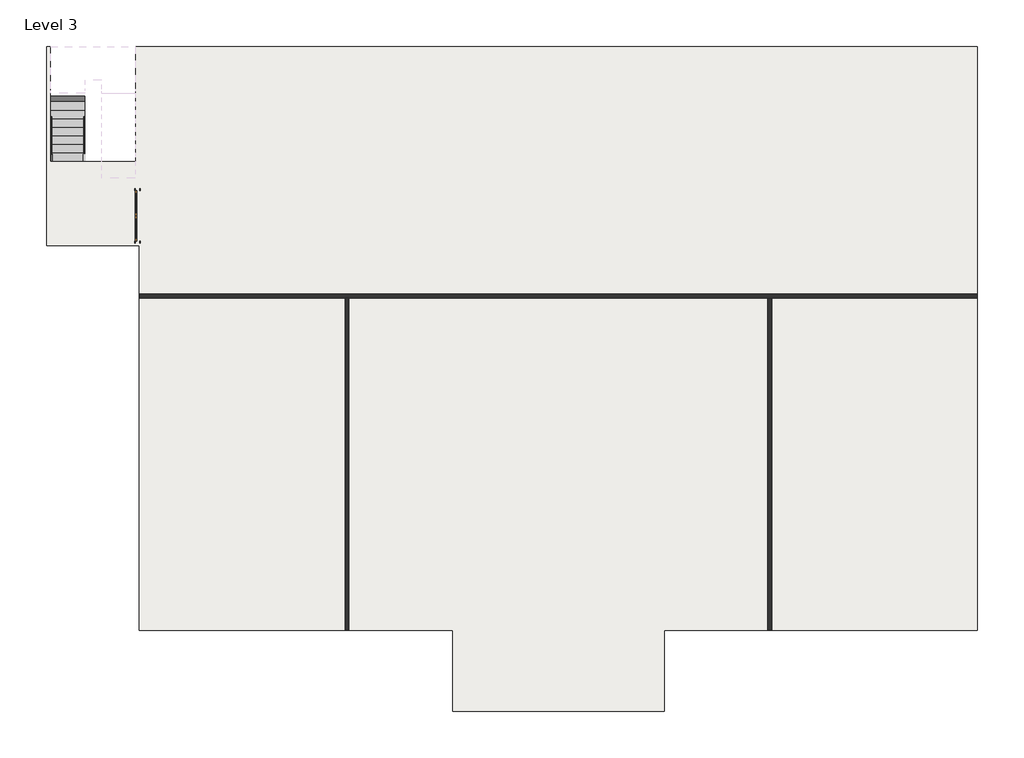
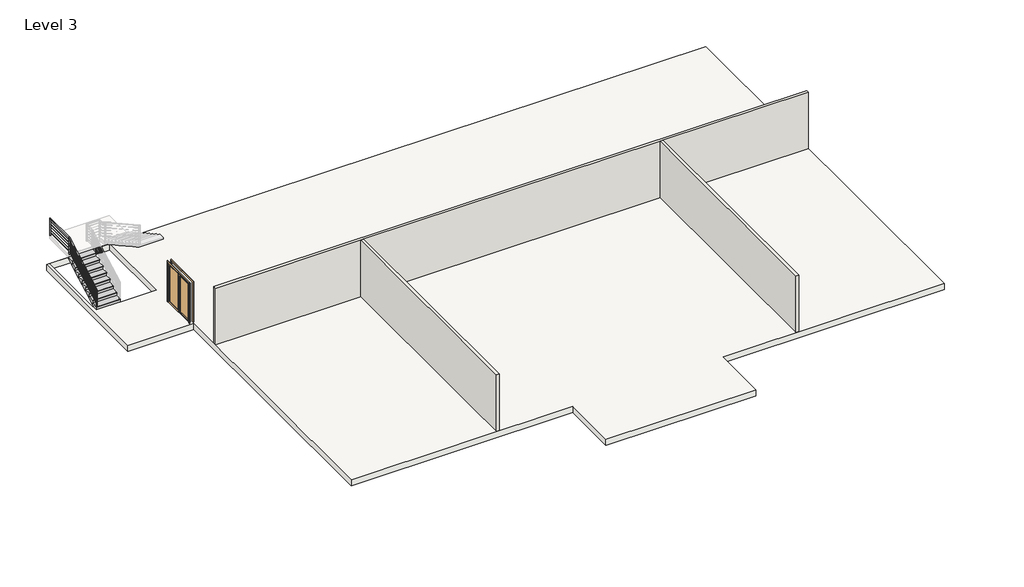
# One storey, part 1 of 3: 3 walls, 1 door, 1 railing, 1 slab, 1 stair flight.
"""IFC4 building model written with IfcOpenShell, lengths in millimetres."""

import ifcopenshell
import ifcopenshell.guid

model = None  # the IFC model being written
_history = None  # IfcOwnerHistory: only IFC2X3 demands one
_inside = {}  # id of a spatial element -> (the spatial element, [elements in it])
_under = {}  # id of a project, library or spatial element -> (it, [spatial elements below it])
_declared = {}  # id of a project -> (the project, [libraries it declares])
_typed = {}  # id of a type object -> (the type object, [elements of that type])
_made_of = {}  # id of a material, layer set ... -> (it, [elements and type objects made of it])


def new_model(schema):
    """Start an empty IFC model of exactly this schema.

    Asked for "IFC4X3", IfcOpenShell would pick the latest addendum, in which some entities
    have other attributes; the version numbers below select the first issue.
    IFC2X3 requires an IfcOwnerHistory on every rooted entity: one is made here for all.
    """
    global model, _history
    if schema == "IFC4X3":
        model = ifcopenshell.file(schema_version=(4, 3, 0, 0))
    else:
        model = ifcopenshell.file(schema=schema)
    _inside.clear()
    _under.clear()
    _declared.clear()
    _typed.clear()
    _made_of.clear()
    _history = None
    if model.schema == "IFC2X3":
        org = make("IfcOrganization", Name="unknown")
        user = make(
            "IfcPersonAndOrganization",
            ThePerson=make("IfcPerson", FamilyName="unknown"),
            TheOrganization=org,
        )
        app = make(
            "IfcApplication",
            ApplicationDeveloper=org,
            Version="unknown",
            ApplicationFullName="unknown",
            ApplicationIdentifier="unknown",
        )
        _history = make(
            "IfcOwnerHistory",
            OwningUser=user,
            OwningApplication=app,
            ChangeAction="ADDED",
            CreationDate=0,
        )
    return model


def make(cls, **values):
    """One entity of the class cls with the attributes given. An attribute that is None is left unset."""
    return model.create_entity(
        cls, **{name: value for name, value in values.items() if value is not None}
    )


def rooted(cls, **values):
    """An entity with a GlobalId (a new one), such as an element, a storey or a relation."""
    return make(cls, GlobalId=ifcopenshell.guid.new(), OwnerHistory=_history, **values)


def si_unit(unit_type, name, prefix=None):
    """IfcSIUnit, for example si_unit("LENGTHUNIT", "METRE", prefix="MILLI")."""
    return make("IfcSIUnit", UnitType=unit_type, Prefix=prefix, Name=name)


def assignment(units):
    """IfcUnitAssignment: the units of a project."""
    return None if units is None else make("IfcUnitAssignment", Units=units)


def point(xyz):
    """IfcCartesianPoint."""
    return None if xyz is None else make("IfcCartesianPoint", Coordinates=xyz)


def direction(xyz):
    """IfcDirection."""
    return None if xyz is None else make("IfcDirection", DirectionRatios=xyz)


def frame(location, z_axis=None, x_axis=None):
    """IfcAxis2Placement3D, a coordinate frame: its origin and axes. An axis left out is left unset."""
    return make(
        "IfcAxis2Placement3D",
        Location=point(location),
        Axis=direction(z_axis),
        RefDirection=direction(x_axis),
    )


def frame_2d(location, x_axis=None):
    """IfcAxis2Placement2D, a coordinate frame in the plane: its origin and x axis."""
    return make(
        "IfcAxis2Placement2D", Location=point(location), RefDirection=direction(x_axis)
    )


def origin():
    """The frame at (0, 0, 0) with its axes left unset."""
    return frame((0.0, 0.0, 0.0))


def place(relative_to, where):
    """IfcLocalPlacement: puts the frame where relative to a parent placement (None: the world)."""
    return make(
        "IfcLocalPlacement", PlacementRelTo=relative_to, RelativePlacement=where
    )


def context(
    kind, dimensions, precision=None, world=None, true_north=None, identifier=None
):
    """IfcGeometricRepresentationContext, for example the 3D "Model" context."""
    return make(
        "IfcGeometricRepresentationContext",
        ContextIdentifier=identifier,
        ContextType=kind,
        CoordinateSpaceDimension=dimensions,
        Precision=precision,
        WorldCoordinateSystem=world,
        TrueNorth=true_north,
    )


def project(units=None, contexts=None):
    """IfcProject with its units and contexts."""
    return rooted(
        "IfcProject",
        Name="project",
        RepresentationContexts=contexts,
        UnitsInContext=assignment(units),
    )


def spatial(cls, under=None, at=None, **own):
    """A site, building, storey or space (cls), placed at a placement, below another one or the project."""
    s = rooted(cls, ObjectPlacement=at, **own)
    if under is not None:
        _under.setdefault(under.id(), (under, []))[1].append(s)
    return s


def polyline(points):
    """IfcPolyline through the points."""
    return make("IfcPolyline", Points=[point(p) for p in points])


def circle_curve(where, radius):
    """IfcCircle in the frame where."""
    return make("IfcCircle", Position=where, Radius=radius)


def ellipse_curve(where, semi_axis1, semi_axis2):
    """IfcEllipse in the frame where."""
    return make(
        "IfcEllipse", Position=where, SemiAxis1=semi_axis1, SemiAxis2=semi_axis2
    )


def trimmed(basis, trim1, trim2, sense, master):
    """IfcTrimmedCurve: the piece of a basis curve between two trims."""
    return make(
        "IfcTrimmedCurve",
        BasisCurve=basis,
        Trim1=trim1,
        Trim2=trim2,
        SenseAgreement=sense,
        MasterRepresentation=master,
    )


def segment(curve, same_sense, transition):
    """IfcCompositeCurveSegment."""
    return make(
        "IfcCompositeCurveSegment",
        Transition=transition,
        SameSense=same_sense,
        ParentCurve=curve,
    )


def composite_curve(segments, self_intersect=None):
    """IfcCompositeCurve: segments joined end to end."""
    return make("IfcCompositeCurve", Segments=segments, SelfIntersect=self_intersect)


def outline(outer, holes=None, kind="AREA"):
    """IfcArbitraryClosedProfileDef: a profile drawn as a closed curve; with holes, ...WithVoids."""
    if holes is None:
        return make("IfcArbitraryClosedProfileDef", ProfileType=kind, OuterCurve=outer)
    return make(
        "IfcArbitraryProfileDefWithVoids",
        ProfileType=kind,
        OuterCurve=outer,
        InnerCurves=holes,
    )


def extrude(swept, where, along, depth):
    """IfcExtrudedAreaSolid: the profile swept, set in the frame where, extruded along a direction by depth."""
    return make(
        "IfcExtrudedAreaSolid",
        SweptArea=swept,
        Position=where,
        ExtrudedDirection=direction(along),
        Depth=depth,
    )


def faces_of(points, faces, orient=None, outer=None):
    """IfcFace entities. A face is a list of loops; a loop is a list of indices into points, from 0.

    orient and outer hold one flag for each loop. By default every Orientation is true, the
    first loop of a face is its IfcFaceOuterBound and the others are IfcFaceBound.
    """
    made = []
    for i, loops in enumerate(faces):
        bounds = []
        for j, loop in enumerate(loops):
            is_outer = j == 0 if outer is None else outer[i][j]
            bounds.append(
                make(
                    "IfcFaceOuterBound" if is_outer else "IfcFaceBound",
                    Bound=make("IfcPolyLoop", Polygon=[points[k] for k in loop]),
                    Orientation=True if orient is None else orient[i][j],
                )
            )
        made.append(make("IfcFace", Bounds=bounds))
    return made


def faceted_brep(points, faces, orient=None, outer=None, voids=None):
    """IfcFacetedBrep: a solid bounded by flat faces; with voids (closed shells), ...WithVoids."""
    shared = [point(p) for p in points]
    hull = make("IfcClosedShell", CfsFaces=faces_of(shared, faces, orient, outer))
    if voids is None:
        return make("IfcFacetedBrep", Outer=hull)
    return make(
        "IfcFacetedBrepWithVoids",
        Outer=hull,
        Voids=[
            make(cls, CfsFaces=faces_of(shared, fs, o, b)) for cls, fs, o, b in voids
        ],
    )


def shape(context_of_items, identifier, shape_type, items):
    """IfcShapeRepresentation: the items that make up one representation, for example the "Body"."""
    return make(
        "IfcShapeRepresentation",
        ContextOfItems=context_of_items,
        RepresentationIdentifier=identifier,
        RepresentationType=shape_type,
        Items=items,
    )


def source(mapping_origin, context_of_items, identifier, shape_type, items):
    """IfcRepresentationMap: a shape defined once, which mapped items show again and again."""
    return make(
        "IfcRepresentationMap",
        MappingOrigin=mapping_origin,
        MappedRepresentation=shape(context_of_items, identifier, shape_type, items),
    )


def transform(
    local_origin,
    x_axis=None,
    y_axis=None,
    z_axis=None,
    scale=None,
    scale2=None,
    scale3=None,
    uniform=True,
):
    """IfcCartesianTransformationOperator3D, or its non-uniform kind. x_axis, y_axis, z_axis: its Axis1, 2, 3."""
    if uniform:
        return make(
            "IfcCartesianTransformationOperator3D",
            Axis1=direction(x_axis),
            Axis2=direction(y_axis),
            LocalOrigin=point(local_origin),
            Scale=scale,
            Axis3=direction(z_axis),
        )
    return make(
        "IfcCartesianTransformationOperator3DnonUniform",
        Axis1=direction(x_axis),
        Axis2=direction(y_axis),
        LocalOrigin=point(local_origin),
        Scale=scale,
        Axis3=direction(z_axis),
        Scale2=scale2,
        Scale3=scale3,
    )


def mapped(mapping_source, mapping_target):
    """IfcMappedItem: shows the shape of a source again, moved by a transform."""
    return make(
        "IfcMappedItem", MappingSource=mapping_source, MappingTarget=mapping_target
    )


def made_of(thing, what):
    """Note that an element or type object is made of a material, layer set ...; save() writes the relation."""
    if what is not None:
        _made_of.setdefault(what.id(), (what, []))[1].append(thing)
    return thing


def element(
    cls,
    number,
    at=None,
    inside=None,
    cuts=None,
    type_object=None,
    material=None,
    context=None,
    identifier="Body",
    shape_type=None,
    held_by="IfcProductDefinitionShape",
    body=None,
    shapes=None,
    **own,
):
    """One element of the class cls, such as IfcWall. Its Tag is "e" and its number.

    at: its placement. inside: the storey or other place that contains it. cuts: it is an
    opening in that element (IfcRelVoidsElement). A single representation is given by context,
    identifier, shape_type and body (its items); several are given by shapes. held_by: the class
    of the entity that holds the representations. save() writes the other relations.
    """
    e = rooted(cls, Tag="e%d" % number, ObjectPlacement=at, **own)
    if body is not None:
        shapes = [shape(context, identifier, shape_type, body)]
    if shapes is not None:
        e.Representation = make(held_by, Representations=shapes)
    if inside is not None:
        _inside.setdefault(inside.id(), (inside, []))[1].append(e)
    if cuts is not None:
        rooted(
            "IfcRelVoidsElement", RelatingBuildingElement=cuts, RelatedOpeningElement=e
        )
    if type_object is not None:
        _typed.setdefault(type_object.id(), (type_object, []))[1].append(e)
    return made_of(e, material)


def aggregate(whole, parts):
    """IfcRelAggregates: a whole, such as a stair, and the parts it consists of."""
    return rooted("IfcRelAggregates", RelatingObject=whole, RelatedObjects=parts)


def save(model, path):
    """Write the relations noted so far, then the file.

    IfcRelAggregates (storeys below a building ...), IfcRelContainedInSpatialStructure (elements
    in a storey), IfcRelDefinesByType, IfcRelAssociatesMaterial and IfcRelDeclares: one each for
    every whole, place, type object, material and project.
    """
    for whole, parts in _under.values():
        aggregate(whole, parts)
    for where, things in _inside.values():
        rooted(
            "IfcRelContainedInSpatialStructure",
            RelatedElements=things,
            RelatingStructure=where,
        )
    for kind, things in _typed.values():
        rooted("IfcRelDefinesByType", RelatedObjects=things, RelatingType=kind)
    for what, things in _made_of.values():
        rooted("IfcRelAssociatesMaterial", RelatedObjects=things, RelatingMaterial=what)
    for by, libraries in _declared.values():
        rooted("IfcRelDeclares", RelatingContext=by, RelatedDefinitions=libraries)
    model.write(path)


def plane_surface(at):
    """IfcPlane: the flat surface through the origin of the frame at, square to its z axis."""
    return make("IfcPlane", Position=at)


def cylinder_surface(at, radius):
    """IfcCylindricalSurface: all points at the distance radius from the z axis of the frame at."""
    return make("IfcCylindricalSurface", Position=at, Radius=radius)


def advanced_brep(points, edges, surfaces, faces):
    """IfcAdvancedBrep: a solid bounded by faces that lie on surfaces and meet in shared edges.

    An edge is (start, end): straight between two places in points (the first is 0);
    or (start, end, curve); or (start, end, curve, False) where it runs against its curve.
    A face is (place in surfaces, loops), or (place, loops, False) where it looks against
    its surface's normal. A loop lists edges by number (the first is 1), with a minus sign
    where the edge is run from its end to its start. The first loop is the outer one.
    """
    corners = [point(p) for p in points]
    vertices = [make("IfcVertexPoint", VertexGeometry=c) for c in corners]
    made = []
    for start, end, *more in edges:
        made.append(
            make(
                "IfcEdgeCurve",
                EdgeStart=vertices[start],
                EdgeEnd=vertices[end],
                EdgeGeometry=more[0] if more else make("IfcPolyline", Points=[corners[start], corners[end]]),
                SameSense=more[1] if len(more) > 1 else True,
            )
        )
    hull = []
    for where, loops, *sense in faces:
        bounds = []
        for j, loop in enumerate(loops):
            ring = [make("IfcOrientedEdge", EdgeElement=made[abs(k) - 1], Orientation=k > 0) for k in loop]
            bounds.append(
                make(
                    "IfcFaceOuterBound" if j == 0 else "IfcFaceBound",
                    Bound=make("IfcEdgeLoop", EdgeList=ring),
                    Orientation=True,
                )
            )
        hull.append(make("IfcAdvancedFace", Bounds=bounds, FaceSurface=surfaces[where], SameSense=sense[0] if sense else True))
    return make("IfcAdvancedBrep", Outer=make("IfcClosedShell", CfsFaces=hull))


def door_cb31edf2(model_context):
    return source(origin(), model_context, "Body", "SweptSolid", [
        extrude(outline(polyline([(2133.6, -914.4), (0.0, -914.4), (0.0, 0.0), (2133.6, 0.0), (2133.6, -914.4)]), holes=[polyline([(2032.0, -812.8), (2032.0, -101.6), (101.6, -101.6), (101.6, -812.8), (2032.0, -812.8)])]), frame((0.0, 29.36875, 0.0), z_axis=(0.0, 1.0, 0.0), x_axis=(0.0, 0.0, 1.0)), (0.0, 0.0, 1.0), 50.8),
        extrude(outline(polyline([(2133.6, 914.4), (2133.6, 0.0), (0.0, 0.0), (0.0, 914.4), (2133.6, 914.4)]), holes=[polyline([(2032.0, 812.8), (101.6, 812.8), (101.6, 101.6), (2032.0, 101.6), (2032.0, 812.8)])]), frame((0.0, 29.36875, 0.0), z_axis=(0.0, 1.0, 0.0), x_axis=(0.0, 0.0, 1.0)), (0.0, 0.0, 1.0), 50.8),
        extrude(outline(polyline([(101.6, 57.94375), (812.8, 57.94375), (812.8, 51.59375), (101.6, 51.59375), (101.6, 57.94375)])), frame((0.0, 0.0, 101.6), z_axis=(0.0, 0.0, 1.0), x_axis=(1.0, 0.0, 0.0)), (0.0, 0.0, 1.0), 1930.4),
        extrude(outline(polyline([(-812.8, 57.94375), (-101.6, 57.94375), (-101.6, 51.59375), (-812.8, 51.59375), (-812.8, 57.94375)])), frame((0.0, 0.0, 101.6), z_axis=(0.0, 0.0, 1.0), x_axis=(1.0, 0.0, 0.0)), (0.0, 0.0, 1.0), 1930.4),
        extrude(outline(polyline([(0.0, 990.6), (2209.8, 990.6), (2209.8, -990.6), (0.0, -990.6), (0.0, -914.4), (2133.6, -914.4), (2133.6, 914.4), (0.0, 914.4), (0.0, 990.6)])), frame((0.0, 80.16875, 0.0), z_axis=(0.0, 1.0, 0.0), x_axis=(0.0, 0.0, 1.0)), (0.0, 0.0, 1.0), 25.4),
        extrude(outline(polyline([(0.0, 990.6), (2209.8, 990.6), (2209.8, -990.6), (0.0, -990.6), (0.0, -914.4), (2133.6, -914.4), (2133.6, 914.4), (0.0, 914.4), (0.0, 990.6)])), frame((0.0, -100.80625, 0.0), z_axis=(0.0, 1.0, 0.0), x_axis=(0.0, 0.0, 1.0)), (0.0, 0.0, 1.0), 25.4),
    ])


model = new_model("IFC4")

# Units and contexts
model_context = context("Model", 3, world=origin())
ifc_project = project(units=[si_unit("LENGTHUNIT", "METRE", prefix="MILLI")], contexts=[model_context])

# Site, building, storey
site = spatial("IfcSite", under=ifc_project)
building = spatial("IfcBuilding", under=site)
storey = spatial("IfcBuildingStorey", under=building, Name="Level 3", Elevation=6096.0)

# Door
placement = place(None, origin())
door_shape = door_cb31edf2(model_context)
element("IfcDoor", 1, ObjectType="Door-Double-Glass : 72\" x 84\"", at=placement, inside=storey, context=model_context, shape_type="MappedRepresentation", body=[
    mapped(door_shape, transform((-18248.748632, 9505.1983604, 6096.0), x_axis=(0.0, 1.0, 0.0), y_axis=(-1.0, 0.0, 0.0), z_axis=(0.0, 0.0, 1.0))),
])

# Railing
element("IfcRailing", 2, ObjectType="Handrail -Wire", at=placement, inside=storey, context=model_context, shape_type="SolidModel", body=[
    advanced_brep(
    [(-21332.467382, 11483.2233604, 7157.9409162), (-21370.567382, 11483.2233604, 7157.9409162), (-21332.467382, 13926.5597113, 8515.35), (-21370.567382, 13926.5597113, 8515.35), (-21332.467382, 15610.7233604, 8515.35), (-21370.567382, 15610.7233604, 8515.35)],
    [
        (0, 1, ellipse_curve(frame((-21351.517382, 11483.2233604, 7157.9409162), z_axis=(0.0, -1.0, 0.0), x_axis=(0.0, 0.0, -1.0)), 21.7924171, 19.05)),
        (1, 0, ellipse_curve(frame((-21351.517382, 11483.2233604, 7157.9409162), z_axis=(0.0, -1.0, 0.0), x_axis=(0.0, 0.0, -1.0)), 21.7924171, 19.05)),
        (0, 2),
        (2, 3, ellipse_curve(frame((-21351.517382, 13926.5597113, 8515.35), z_axis=(0.0, -0.9680282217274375, -0.2508413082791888), x_axis=(0.0, 0.25084130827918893, -0.9680282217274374)), 19.6791783, 19.05)),
        (3, 1),
        (3, 2, ellipse_curve(frame((-21351.517382, 13926.5597113, 8515.35), z_axis=(0.0, -0.9680282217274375, -0.2508413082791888), x_axis=(0.0, 0.25084130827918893, -0.9680282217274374)), 19.6791783, 19.05)),
        (4, 5, circle_curve(frame((-21351.517382, 15610.7233604, 8515.35), z_axis=(0.0, 1.0, 0.0), x_axis=(-1.0, 0.0, 0.0)), 19.05)),
        (5, 4, circle_curve(frame((-21351.517382, 15610.7233604, 8515.35), z_axis=(0.0, 1.0, 0.0), x_axis=(-1.0, 0.0, 0.0)), 19.05)),
        (2, 4),
        (5, 3),
    ],
    [
        plane_surface(frame((-21351.517382, 11483.2233604, 7179.7333333), z_axis=(0.0, -1.0, 0.0), x_axis=(0.0, 0.0, 1.0))),
        cylinder_surface(frame((-21351.517382, 11492.4748583, 7163.0806372), z_axis=(0.0, -0.87415727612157, -0.4856429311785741), x_axis=(-1.0, 0.0, 0.0)), 19.05),
        plane_surface(frame((-21351.517382, 15610.7233604, 8534.4), z_axis=(0.0, 1.0, 0.0), x_axis=(0.0, 0.0, 1.0))),
        cylinder_surface(frame((-21351.517382, 13921.6233604, 8515.35), z_axis=(0.0, -1.0, 0.0), x_axis=(-1.0, 0.0, 0.0)), 19.05),
    ],
    [
        (0, [[1, 2]]),
        (1, [[-1, 3, 4, 5]]),
        (1, [[-2, -5, 6, -3]]),
        (2, [[7, 8]]),
        (3, [[-4, 9, -8, 10]]),
        (3, [[-6, -10, -7, -9]]),
    ],
),
    advanced_brep(
    [(-21348.342382, 11483.2233604, 7023.7012638), (-21354.692382, 11483.2233604, 7023.7012638), (-21348.342382, 13921.6233604, 8378.3679305), (-21354.692382, 13921.6233604, 8378.3679305)],
    [
        (0, 1, ellipse_curve(frame((-21351.517382, 11483.2233604, 7023.7012638), z_axis=(0.0, -1.0, 0.0), x_axis=(0.0, 0.0, -1.0)), 3.6320695, 3.175)),
        (1, 0, ellipse_curve(frame((-21351.517382, 11483.2233604, 7023.7012638), z_axis=(0.0, -1.0, 0.0), x_axis=(0.0, 0.0, -1.0)), 3.6320695, 3.175)),
        (2, 3, ellipse_curve(frame((-21351.517382, 13921.6233604, 8378.3679305), z_axis=(0.0, 1.0, 0.0), x_axis=(0.0, 0.0, -1.0)), 3.6320695, 3.175)),
        (3, 2, ellipse_curve(frame((-21351.517382, 13921.6233604, 8378.3679305), z_axis=(0.0, 1.0, 0.0), x_axis=(0.0, 0.0, -1.0)), 3.6320695, 3.175)),
        (0, 2),
        (3, 1),
    ],
    [
        plane_surface(frame((-21351.517382, 11483.2233604, 7027.3333333), z_axis=(0.0, -1.0, 0.0), x_axis=(0.0, 0.0, 1.0))),
        plane_surface(frame((-21351.517382, 13921.6233604, 8382.0), z_axis=(0.0, 1.0, 0.0), x_axis=(0.0, 0.0, 1.0))),
        cylinder_surface(frame((-21351.517382, 11484.7652768, 7024.557884), z_axis=(0.0, -0.87415727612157, -0.4856429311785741), x_axis=(-1.0, 0.0, 0.0)), 3.175),
    ],
    [
        (0, [[1, 2]]),
        (1, [[3, 4]]),
        (2, [[-1, 5, -4, 6]]),
        (2, [[-2, -6, -3, -5]]),
    ],
),
    advanced_brep(
    [(-21348.342382, 13921.6233604, 8378.825), (-21354.692382, 13921.6233604, 8378.825), (-21348.342382, 15610.7233604, 8378.825), (-21354.692382, 15610.7233604, 8378.825)],
    [
        (0, 1, circle_curve(frame((-21351.517382, 13921.6233604, 8378.825), z_axis=(0.0, -1.0, 0.0), x_axis=(-1.0, 0.0, 0.0)), 3.175)),
        (1, 0, circle_curve(frame((-21351.517382, 13921.6233604, 8378.825), z_axis=(0.0, -1.0, 0.0), x_axis=(-1.0, 0.0, 0.0)), 3.175)),
        (2, 3, circle_curve(frame((-21351.517382, 15610.7233604, 8378.825), z_axis=(0.0, 1.0, 0.0), x_axis=(-1.0, 0.0, 0.0)), 3.175)),
        (3, 2, circle_curve(frame((-21351.517382, 15610.7233604, 8378.825), z_axis=(0.0, 1.0, 0.0), x_axis=(-1.0, 0.0, 0.0)), 3.175)),
        (0, 2),
        (3, 1),
    ],
    [
        plane_surface(frame((-21351.517382, 13921.6233604, 8382.0), z_axis=(0.0, -1.0, 0.0), x_axis=(0.0, 0.0, 1.0))),
        plane_surface(frame((-21351.517382, 15610.7233604, 8382.0), z_axis=(0.0, 1.0, 0.0), x_axis=(0.0, 0.0, 1.0))),
        cylinder_surface(frame((-21351.517382, 13921.6233604, 8378.825), z_axis=(0.0, -1.0, 0.0), x_axis=(-1.0, 0.0, 0.0)), 3.175),
    ],
    [
        (0, [[1, 2]]),
        (1, [[3, 4]]),
        (2, [[-1, 5, -4, 6]]),
        (2, [[-2, -6, -3, -5]]),
    ],
),
    advanced_brep(
    [(-21348.342382, 11483.2233604, 6871.3012638), (-21354.692382, 11483.2233604, 6871.3012638), (-21348.342382, 13921.6233604, 8225.9679305), (-21354.692382, 13921.6233604, 8225.9679305)],
    [
        (0, 1, ellipse_curve(frame((-21351.517382, 11483.2233604, 6871.3012638), z_axis=(0.0, -1.0, 0.0), x_axis=(0.0, 0.0, -1.0)), 3.6320695, 3.175)),
        (1, 0, ellipse_curve(frame((-21351.517382, 11483.2233604, 6871.3012638), z_axis=(0.0, -1.0, 0.0), x_axis=(0.0, 0.0, -1.0)), 3.6320695, 3.175)),
        (2, 3, ellipse_curve(frame((-21351.517382, 13921.6233604, 8225.9679305), z_axis=(0.0, 1.0, 0.0), x_axis=(0.0, 0.0, -1.0)), 3.6320695, 3.175)),
        (3, 2, ellipse_curve(frame((-21351.517382, 13921.6233604, 8225.9679305), z_axis=(0.0, 1.0, 0.0), x_axis=(0.0, 0.0, -1.0)), 3.6320695, 3.175)),
        (0, 2),
        (3, 1),
    ],
    [
        plane_surface(frame((-21351.517382, 11483.2233604, 6874.9333333), z_axis=(0.0, -1.0, 0.0), x_axis=(0.0, 0.0, 1.0))),
        plane_surface(frame((-21351.517382, 13921.6233604, 8229.6), z_axis=(0.0, 1.0, 0.0), x_axis=(0.0, 0.0, 1.0))),
        cylinder_surface(frame((-21351.517382, 11484.7652768, 6872.157884), z_axis=(0.0, -0.87415727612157, -0.4856429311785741), x_axis=(-1.0, 0.0, 0.0)), 3.175),
    ],
    [
        (0, [[1, 2]]),
        (1, [[3, 4]]),
        (2, [[-1, 5, -4, 6]]),
        (2, [[-2, -6, -3, -5]]),
    ],
),
    advanced_brep(
    [(-21348.342382, 13921.6233604, 8226.425), (-21354.692382, 13921.6233604, 8226.425), (-21348.342382, 15610.7233604, 8226.425), (-21354.692382, 15610.7233604, 8226.425)],
    [
        (0, 1, circle_curve(frame((-21351.517382, 13921.6233604, 8226.425), z_axis=(0.0, -1.0, 0.0), x_axis=(-1.0, 0.0, 0.0)), 3.175)),
        (1, 0, circle_curve(frame((-21351.517382, 13921.6233604, 8226.425), z_axis=(0.0, -1.0, 0.0), x_axis=(-1.0, 0.0, 0.0)), 3.175)),
        (2, 3, circle_curve(frame((-21351.517382, 15610.7233604, 8226.425), z_axis=(0.0, 1.0, 0.0), x_axis=(-1.0, 0.0, 0.0)), 3.175)),
        (3, 2, circle_curve(frame((-21351.517382, 15610.7233604, 8226.425), z_axis=(0.0, 1.0, 0.0), x_axis=(-1.0, 0.0, 0.0)), 3.175)),
        (0, 2),
        (3, 1),
    ],
    [
        plane_surface(frame((-21351.517382, 13921.6233604, 8229.6), z_axis=(0.0, -1.0, 0.0), x_axis=(0.0, 0.0, 1.0))),
        plane_surface(frame((-21351.517382, 15610.7233604, 8229.6), z_axis=(0.0, 1.0, 0.0), x_axis=(0.0, 0.0, 1.0))),
        cylinder_surface(frame((-21351.517382, 13921.6233604, 8226.425), z_axis=(0.0, -1.0, 0.0), x_axis=(-1.0, 0.0, 0.0)), 3.175),
    ],
    [
        (0, [[1, 2]]),
        (1, [[3, 4]]),
        (2, [[-1, 5, -4, 6]]),
        (2, [[-2, -6, -3, -5]]),
    ],
),
    advanced_brep(
    [(-21348.342382, 11483.2233604, 6718.9012638), (-21354.692382, 11483.2233604, 6718.9012638), (-21348.342382, 13921.6233604, 8073.5679305), (-21354.692382, 13921.6233604, 8073.5679305)],
    [
        (0, 1, ellipse_curve(frame((-21351.517382, 11483.2233604, 6718.9012638), z_axis=(0.0, -1.0, 0.0), x_axis=(0.0, 0.0, -1.0)), 3.6320695, 3.175)),
        (1, 0, ellipse_curve(frame((-21351.517382, 11483.2233604, 6718.9012638), z_axis=(0.0, -1.0, 0.0), x_axis=(0.0, 0.0, -1.0)), 3.6320695, 3.175)),
        (2, 3, ellipse_curve(frame((-21351.517382, 13921.6233604, 8073.5679305), z_axis=(0.0, 1.0, 0.0), x_axis=(0.0, 0.0, -1.0)), 3.6320695, 3.175)),
        (3, 2, ellipse_curve(frame((-21351.517382, 13921.6233604, 8073.5679305), z_axis=(0.0, 1.0, 0.0), x_axis=(0.0, 0.0, -1.0)), 3.6320695, 3.175)),
        (0, 2),
        (3, 1),
    ],
    [
        plane_surface(frame((-21351.517382, 11483.2233604, 6722.5333333), z_axis=(0.0, -1.0, 0.0), x_axis=(0.0, 0.0, 1.0))),
        plane_surface(frame((-21351.517382, 13921.6233604, 8077.2), z_axis=(0.0, 1.0, 0.0), x_axis=(0.0, 0.0, 1.0))),
        cylinder_surface(frame((-21351.517382, 11484.7652768, 6719.757884), z_axis=(0.0, -0.87415727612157, -0.4856429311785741), x_axis=(-1.0, 0.0, 0.0)), 3.175),
    ],
    [
        (0, [[1, 2]]),
        (1, [[3, 4]]),
        (2, [[-1, 5, -4, 6]]),
        (2, [[-2, -6, -3, -5]]),
    ],
),
    advanced_brep(
    [(-21348.342382, 13921.6233604, 8074.025), (-21354.692382, 13921.6233604, 8074.025), (-21348.342382, 15610.7233604, 8074.025), (-21354.692382, 15610.7233604, 8074.025)],
    [
        (0, 1, circle_curve(frame((-21351.517382, 13921.6233604, 8074.025), z_axis=(0.0, -1.0, 0.0), x_axis=(-1.0, 0.0, 0.0)), 3.175)),
        (1, 0, circle_curve(frame((-21351.517382, 13921.6233604, 8074.025), z_axis=(0.0, -1.0, 0.0), x_axis=(-1.0, 0.0, 0.0)), 3.175)),
        (2, 3, circle_curve(frame((-21351.517382, 15610.7233604, 8074.025), z_axis=(0.0, 1.0, 0.0), x_axis=(-1.0, 0.0, 0.0)), 3.175)),
        (3, 2, circle_curve(frame((-21351.517382, 15610.7233604, 8074.025), z_axis=(0.0, 1.0, 0.0), x_axis=(-1.0, 0.0, 0.0)), 3.175)),
        (0, 2),
        (3, 1),
    ],
    [
        plane_surface(frame((-21351.517382, 13921.6233604, 8077.2), z_axis=(0.0, -1.0, 0.0), x_axis=(0.0, 0.0, 1.0))),
        plane_surface(frame((-21351.517382, 15610.7233604, 8077.2), z_axis=(0.0, 1.0, 0.0), x_axis=(0.0, 0.0, 1.0))),
        cylinder_surface(frame((-21351.517382, 13921.6233604, 8074.025), z_axis=(0.0, -1.0, 0.0), x_axis=(-1.0, 0.0, 0.0)), 3.175),
    ],
    [
        (0, [[1, 2]]),
        (1, [[3, 4]]),
        (2, [[-1, 5, -4, 6]]),
        (2, [[-2, -6, -3, -5]]),
    ],
),
    advanced_brep(
    [(-21348.342382, 11483.2233604, 6566.5012638), (-21354.692382, 11483.2233604, 6566.5012638), (-21348.342382, 13921.6233604, 7921.1679305), (-21354.692382, 13921.6233604, 7921.1679305)],
    [
        (0, 1, ellipse_curve(frame((-21351.517382, 11483.2233604, 6566.5012638), z_axis=(0.0, -1.0, 0.0), x_axis=(0.0, 0.0, -1.0)), 3.6320695, 3.175)),
        (1, 0, ellipse_curve(frame((-21351.517382, 11483.2233604, 6566.5012638), z_axis=(0.0, -1.0, 0.0), x_axis=(0.0, 0.0, -1.0)), 3.6320695, 3.175)),
        (2, 3, ellipse_curve(frame((-21351.517382, 13921.6233604, 7921.1679305), z_axis=(0.0, 1.0, 0.0), x_axis=(0.0, 0.0, -1.0)), 3.6320695, 3.175)),
        (3, 2, ellipse_curve(frame((-21351.517382, 13921.6233604, 7921.1679305), z_axis=(0.0, 1.0, 0.0), x_axis=(0.0, 0.0, -1.0)), 3.6320695, 3.175)),
        (0, 2),
        (3, 1),
    ],
    [
        plane_surface(frame((-21351.517382, 11483.2233604, 6570.1333333), z_axis=(0.0, -1.0, 0.0), x_axis=(0.0, 0.0, 1.0))),
        plane_surface(frame((-21351.517382, 13921.6233604, 7924.8), z_axis=(0.0, 1.0, 0.0), x_axis=(0.0, 0.0, 1.0))),
        cylinder_surface(frame((-21351.517382, 11484.7652768, 6567.357884), z_axis=(0.0, -0.87415727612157, -0.4856429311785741), x_axis=(-1.0, 0.0, 0.0)), 3.175),
    ],
    [
        (0, [[1, 2]]),
        (1, [[3, 4]]),
        (2, [[-1, 5, -4, 6]]),
        (2, [[-2, -6, -3, -5]]),
    ],
),
    advanced_brep(
    [(-21348.342382, 13921.6233604, 7921.625), (-21354.692382, 13921.6233604, 7921.625), (-21348.342382, 15610.7233604, 7921.625), (-21354.692382, 15610.7233604, 7921.625)],
    [
        (0, 1, circle_curve(frame((-21351.517382, 13921.6233604, 7921.625), z_axis=(0.0, -1.0, 0.0), x_axis=(-1.0, 0.0, 0.0)), 3.175)),
        (1, 0, circle_curve(frame((-21351.517382, 13921.6233604, 7921.625), z_axis=(0.0, -1.0, 0.0), x_axis=(-1.0, 0.0, 0.0)), 3.175)),
        (2, 3, circle_curve(frame((-21351.517382, 15610.7233604, 7921.625), z_axis=(0.0, 1.0, 0.0), x_axis=(-1.0, 0.0, 0.0)), 3.175)),
        (3, 2, circle_curve(frame((-21351.517382, 15610.7233604, 7921.625), z_axis=(0.0, 1.0, 0.0), x_axis=(-1.0, 0.0, 0.0)), 3.175)),
        (0, 2),
        (3, 1),
    ],
    [
        plane_surface(frame((-21351.517382, 13921.6233604, 7924.8), z_axis=(0.0, -1.0, 0.0), x_axis=(0.0, 0.0, 1.0))),
        plane_surface(frame((-21351.517382, 15610.7233604, 7924.8), z_axis=(0.0, 1.0, 0.0), x_axis=(0.0, 0.0, 1.0))),
        cylinder_surface(frame((-21351.517382, 13921.6233604, 7921.625), z_axis=(0.0, -1.0, 0.0), x_axis=(-1.0, 0.0, 0.0)), 3.175),
    ],
    [
        (0, [[1, 2]]),
        (1, [[3, 4]]),
        (2, [[-1, 5, -4, 6]]),
        (2, [[-2, -6, -3, -5]]),
    ],
),
    advanced_brep(
    [(-21348.342382, 11483.2233604, 6414.1012638), (-21354.692382, 11483.2233604, 6414.1012638), (-21348.342382, 13921.6233604, 7768.7679305), (-21354.692382, 13921.6233604, 7768.7679305)],
    [
        (0, 1, ellipse_curve(frame((-21351.517382, 11483.2233604, 6414.1012638), z_axis=(0.0, -1.0, 0.0), x_axis=(0.0, 0.0, -1.0)), 3.6320695, 3.175)),
        (1, 0, ellipse_curve(frame((-21351.517382, 11483.2233604, 6414.1012638), z_axis=(0.0, -1.0, 0.0), x_axis=(0.0, 0.0, -1.0)), 3.6320695, 3.175)),
        (2, 3, ellipse_curve(frame((-21351.517382, 13921.6233604, 7768.7679305), z_axis=(0.0, 1.0, 0.0), x_axis=(0.0, 0.0, -1.0)), 3.6320695, 3.175)),
        (3, 2, ellipse_curve(frame((-21351.517382, 13921.6233604, 7768.7679305), z_axis=(0.0, 1.0, 0.0), x_axis=(0.0, 0.0, -1.0)), 3.6320695, 3.175)),
        (0, 2),
        (3, 1),
    ],
    [
        plane_surface(frame((-21351.517382, 11483.2233604, 6417.7333333), z_axis=(0.0, -1.0, 0.0), x_axis=(0.0, 0.0, 1.0))),
        plane_surface(frame((-21351.517382, 13921.6233604, 7772.4), z_axis=(0.0, 1.0, 0.0), x_axis=(0.0, 0.0, 1.0))),
        cylinder_surface(frame((-21351.517382, 11484.7652768, 6414.957884), z_axis=(0.0, -0.87415727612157, -0.4856429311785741), x_axis=(-1.0, 0.0, 0.0)), 3.175),
    ],
    [
        (0, [[1, 2]]),
        (1, [[3, 4]]),
        (2, [[-1, 5, -4, 6]]),
        (2, [[-2, -6, -3, -5]]),
    ],
),
    advanced_brep(
    [(-21348.342382, 13921.6233604, 7769.225), (-21354.692382, 13921.6233604, 7769.225), (-21348.342382, 15610.7233604, 7769.225), (-21354.692382, 15610.7233604, 7769.225)],
    [
        (0, 1, circle_curve(frame((-21351.517382, 13921.6233604, 7769.225), z_axis=(0.0, -1.0, 0.0), x_axis=(-1.0, 0.0, 0.0)), 3.175)),
        (1, 0, circle_curve(frame((-21351.517382, 13921.6233604, 7769.225), z_axis=(0.0, -1.0, 0.0), x_axis=(-1.0, 0.0, 0.0)), 3.175)),
        (2, 3, circle_curve(frame((-21351.517382, 15610.7233604, 7769.225), z_axis=(0.0, 1.0, 0.0), x_axis=(-1.0, 0.0, 0.0)), 3.175)),
        (3, 2, circle_curve(frame((-21351.517382, 15610.7233604, 7769.225), z_axis=(0.0, 1.0, 0.0), x_axis=(-1.0, 0.0, 0.0)), 3.175)),
        (0, 2),
        (3, 1),
    ],
    [
        plane_surface(frame((-21351.517382, 13921.6233604, 7772.4), z_axis=(0.0, -1.0, 0.0), x_axis=(0.0, 0.0, 1.0))),
        plane_surface(frame((-21351.517382, 15610.7233604, 7772.4), z_axis=(0.0, 1.0, 0.0), x_axis=(0.0, 0.0, 1.0))),
        cylinder_surface(frame((-21351.517382, 13921.6233604, 7769.225), z_axis=(0.0, -1.0, 0.0), x_axis=(-1.0, 0.0, 0.0)), 3.175),
    ],
    [
        (0, [[1, 2]]),
        (1, [[3, 4]]),
        (2, [[-1, 5, -4, 6]]),
        (2, [[-2, -6, -3, -5]]),
    ],
),
    advanced_brep(
    [(-21376.917382, 13921.6233604, 8490.8151657), (-21326.117382, 13921.6233604, 8490.8151657), (-21326.117382, 13921.6233604, 7620.0), (-21376.917382, 13921.6233604, 7620.0)],
    [
        (0, 1, ellipse_curve(frame((-21351.517382, 13921.6233604, 8490.8151657), z_axis=(0.0, 0.4856429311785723, -0.874157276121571), x_axis=(0.0, 0.874157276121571, 0.4856429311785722)), 29.0565562, 25.4)),
        (1, 2),
        (2, 3, circle_curve(frame((-21351.517382, 13921.6233604, 7620.0), z_axis=(0.0, 0.0, 1.0), x_axis=(1.0, 0.0, 0.0)), 25.4)),
        (3, 0),
        (3, 2, circle_curve(frame((-21351.517382, 13921.6233604, 7620.0), z_axis=(0.0, 0.0, 1.0), x_axis=(1.0, 0.0, 0.0)), 25.4)),
        (1, 0, ellipse_curve(frame((-21351.517382, 13921.6233604, 8490.8151657), z_axis=(0.0, 0.4856429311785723, -0.874157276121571), x_axis=(0.0, 0.874157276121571, 0.4856429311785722)), 29.0565562, 25.4)),
    ],
    [
        cylinder_surface(frame((-21351.517382, 13921.6233604, 7391.4), z_axis=(0.0, 0.0, 1.0), x_axis=(1.0, 0.0, 0.0)), 25.4),
        plane_surface(frame((-21300.717382, 13972.4233604, 8519.037388), z_axis=(0.0, -0.4856429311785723, 0.874157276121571), x_axis=(-1.0, 0.0, 0.0))),
        plane_surface(frame((-21300.717382, 13870.8233604, 7620.0), z_axis=(0.0, 0.0, -1.0), x_axis=(-1.0, 0.0, 0.0))),
    ],
    [
        (0, [[1, 2, 3, 4]]),
        (0, [[5, -2, 6, -4]]),
        (1, [[-6, -1]]),
        (2, [[-5, -3]]),
    ],
),
    extrude(outline(composite_curve([segment(trimmed(circle_curve(frame_2d((-21351.517382, 15585.3233604)), 25.4), [point((-21326.117382, 15585.3233604))], [point((-21376.917382, 15585.3233604))], False, "CARTESIAN"), True, "CONTINUOUS"), segment(trimmed(circle_curve(frame_2d((-21351.517382, 15585.3233604)), 25.4), [point((-21376.917382, 15585.3233604))], [point((-21326.117382, 15585.3233604))], False, "CARTESIAN"), True, "CONTINUOUS")], self_intersect=False)), frame((0.0, 0.0, 7620.0), z_axis=(0.0, 0.0, 1.0), x_axis=(1.0, 0.0, 0.0)), (0.0, 0.0, 1.0), 876.3),
    advanced_brep(
    [(-21376.917382, 11508.6233604, 7150.2596102), (-21326.117382, 11508.6233604, 7150.2596102), (-21326.117382, 11508.6233604, 6265.3333333), (-21376.917382, 11508.6233604, 6265.3333333)],
    [
        (0, 1, ellipse_curve(frame((-21351.517382, 11508.6233604, 7150.2596102), z_axis=(0.0, 0.4856429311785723, -0.874157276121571), x_axis=(0.0, 0.874157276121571, 0.4856429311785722)), 29.0565562, 25.4)),
        (1, 2),
        (2, 3, circle_curve(frame((-21351.517382, 11508.6233604, 6265.3333333), z_axis=(0.0, 0.0, 1.0), x_axis=(1.0, 0.0, 0.0)), 25.4)),
        (3, 0),
        (3, 2, circle_curve(frame((-21351.517382, 11508.6233604, 6265.3333333), z_axis=(0.0, 0.0, 1.0), x_axis=(1.0, 0.0, 0.0)), 25.4)),
        (1, 0, ellipse_curve(frame((-21351.517382, 11508.6233604, 7150.2596102), z_axis=(0.0, 0.4856429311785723, -0.874157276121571), x_axis=(0.0, 0.874157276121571, 0.4856429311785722)), 29.0565562, 25.4)),
    ],
    [
        cylinder_surface(frame((-21351.517382, 11508.6233604, 6036.7333333), z_axis=(0.0, 0.0, 1.0), x_axis=(1.0, 0.0, 0.0)), 25.4),
        plane_surface(frame((-21300.717382, 11559.4233604, 7178.4818324), z_axis=(0.0, -0.4856429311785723, 0.874157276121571), x_axis=(-1.0, 0.0, 0.0))),
        plane_surface(frame((-21300.717382, 11457.8233604, 6265.3333333), z_axis=(0.0, 0.0, -1.0), x_axis=(-1.0, 0.0, 0.0))),
    ],
    [
        (0, [[1, 2, 3, 4]]),
        (0, [[5, -2, 6, -4]]),
        (1, [[-6, -1]]),
        (2, [[-5, -3]]),
    ],
),
])

# Slab
element("IfcSlab", 3, ObjectType="Wood Truss  Joist 12\" - Carpet Finish ", at=placement, inside=storey, context=model_context, shape_type="Brep", body=[
    faceted_brep([(12008.207618, 15610.7233604, 5772.15), (12008.207618, 15598.0233604, 5772.15), (12008.207618, -5439.5266396, 5772.15), (721.082618, -5439.5266396, 5772.15), (721.082618, -8357.3516396, 5772.15), (-6898.917382, -8357.3516396, 5772.15), (-6898.917382, -5439.5266396, 5772.15), (-18186.042382, -5439.5266396, 5772.15), (-18186.042382, 8438.3983604, 5772.15), (-21532.492382, 8438.3983604, 5772.15), (-21532.492382, 15610.7233604, 5772.15), (-21376.917382, 15610.7233604, 5772.15), (-10404.117382, 15610.7233604, 5772.15), (4226.282618, 15610.7233604, 5772.15), (-18328.917382, 11483.2233604, 5772.15), (-18328.917382, 15598.0233604, 5772.15), (-21376.917382, 15598.0233604, 5772.15), (-21376.917382, 11788.0233604, 5772.15), (-20157.717382, 11788.0233604, 5772.15), (-20157.717382, 11483.2233604, 5772.15), (12008.207618, -5439.5266396, 6096.0), (12008.207618, 15598.0233604, 6096.0), (12008.207618, 15610.7233604, 6096.0), (4226.282618, 15610.7233604, 6096.0), (-10404.117382, 15610.7233604, 6096.0), (-21376.917382, 15610.7233604, 6096.0), (-21532.492382, 15610.7233604, 6096.0), (-21532.492382, 8438.3983604, 6096.0), (-18186.042382, 8438.3983604, 6096.0), (-18186.042382, -5439.5266396, 6096.0), (-6898.917382, -5439.5266396, 6096.0), (-6898.917382, -8357.3516396, 6096.0), (721.082618, -8357.3516396, 6096.0), (721.082618, -5439.5266396, 6096.0), (-18328.917382, 15598.0233604, 6096.0), (-18328.917382, 11483.2233604, 6096.0), (-20157.717382, 11483.2233604, 6096.0), (-20157.717382, 11788.0233604, 6096.0), (-21376.917382, 11788.0233604, 6096.0), (-21376.917382, 15598.0233604, 6096.0)], [[[0, 1, 2, 3, 4, 5, 6, 7, 8, 9, 10, 11, 12, 13], [14, 15, 16, 17, 18, 19]], [[20, 21, 22, 23, 24, 25, 26, 27, 28, 29, 30, 31, 32, 33], [34, 35, 36, 37, 38, 39]], [[2, 1, 0, 22, 21, 20]], [[3, 2, 20, 33]], [[4, 3, 33, 32]], [[5, 4, 32, 31]], [[6, 5, 31, 30]], [[7, 6, 30, 29]], [[8, 7, 29, 28]], [[9, 8, 28, 27]], [[10, 9, 27, 26]], [[0, 13, 12, 11, 10, 26, 25, 24, 23, 22]], [[14, 35, 34, 15]], [[15, 34, 39, 16]], [[16, 39, 38, 17]], [[17, 38, 37, 18]], [[18, 37, 36, 19]], [[35, 14, 19, 36]]]),
])

# Stair flight
element("IfcStairFlight", 4, ObjectType="3/4\" Nosing", at=placement, inside=storey, context=model_context, shape_type="Brep", body=[
    faceted_brep([(-20157.717382, 11483.2233604, 6265.3333333), (-21376.917382, 11483.2233604, 6265.3333333), (-21376.917382, 11483.2233604, 6246.2833333), (-20157.717382, 11483.2233604, 6246.2833333), (-21376.917382, 11502.2733604, 6227.2333333), (-20157.717382, 11502.2733604, 6227.2333333), (-21376.917382, 11807.0733604, 6265.3333333), (-20157.717382, 11807.0733604, 6265.3333333), (-21376.917382, 11807.0733604, 6178.1636648), (-21376.917382, 11659.1787638, 6096.0), (-21376.917382, 11502.2733604, 6096.0), (-20157.717382, 11502.2733604, 6096.0), (-20157.717382, 11659.1787638, 6096.0), (-20157.717382, 11807.0733604, 6178.1636648), (-21376.917382, 12111.8733604, 6434.6666667), (-21376.917382, 11788.0233604, 6434.6666667), (-20157.717382, 11788.0233604, 6434.6666667), (-20157.717382, 12111.8733604, 6434.6666667), (-21376.917382, 12111.8733604, 6347.4969981), (-21376.917382, 11807.0733604, 6396.5666667), (-21376.917382, 11788.0233604, 6415.6166667), (-20157.717382, 11807.0733604, 6396.5666667), (-20157.717382, 11788.0233604, 6415.6166667), (-20157.717382, 12111.8733604, 6347.4969981), (-21376.917382, 12416.6733604, 6604.0), (-21376.917382, 12092.8233604, 6604.0), (-20157.717382, 12092.8233604, 6604.0), (-20157.717382, 12416.6733604, 6604.0), (-21376.917382, 12416.6733604, 6516.8303315), (-21376.917382, 12111.8733604, 6565.9), (-21376.917382, 12092.8233604, 6584.95), (-20157.717382, 12111.8733604, 6565.9), (-20157.717382, 12092.8233604, 6584.95), (-20157.717382, 12416.6733604, 6516.8303315), (-21376.917382, 12721.4733604, 6773.3333333), (-21376.917382, 12397.6233604, 6773.3333333), (-20157.717382, 12397.6233604, 6773.3333333), (-20157.717382, 12721.4733604, 6773.3333333), (-21376.917382, 12721.4733604, 6686.1636648), (-21376.917382, 12416.6733604, 6735.2333333), (-21376.917382, 12397.6233604, 6754.2833333), (-20157.717382, 12416.6733604, 6735.2333333), (-20157.717382, 12397.6233604, 6754.2833333), (-20157.717382, 12721.4733604, 6686.1636648), (-21376.917382, 13026.2733604, 6942.6666667), (-21376.917382, 12702.4233604, 6942.6666667), (-20157.717382, 12702.4233604, 6942.6666667), (-20157.717382, 13026.2733604, 6942.6666667), (-21376.917382, 13026.2733604, 6855.4969981), (-21376.917382, 12721.4733604, 6904.5666667), (-21376.917382, 12702.4233604, 6923.6166667), (-20157.717382, 12721.4733604, 6904.5666667), (-20157.717382, 12702.4233604, 6923.6166667), (-20157.717382, 13026.2733604, 6855.4969981), (-21376.917382, 13331.0733604, 7112.0), (-21376.917382, 13007.2233604, 7112.0), (-20157.717382, 13007.2233604, 7112.0), (-20157.717382, 13331.0733604, 7112.0), (-21376.917382, 13331.0733604, 7024.8303315), (-21376.917382, 13026.2733604, 7073.9), (-21376.917382, 13007.2233604, 7092.95), (-20157.717382, 13026.2733604, 7073.9), (-20157.717382, 13007.2233604, 7092.95), (-20157.717382, 13331.0733604, 7024.8303315), (-21376.917382, 13635.8733604, 7281.3333333), (-21376.917382, 13312.0233604, 7281.3333333), (-20157.717382, 13312.0233604, 7281.3333333), (-20157.717382, 13635.8733604, 7281.3333333), (-21376.917382, 13635.8733604, 7194.1636648), (-21376.917382, 13331.0733604, 7243.2333333), (-21376.917382, 13312.0233604, 7262.2833333), (-20157.717382, 13331.0733604, 7243.2333333), (-20157.717382, 13312.0233604, 7262.2833333), (-20157.717382, 13635.8733604, 7194.1636648), (-21376.917382, 13940.6733604, 7450.6666667), (-21376.917382, 13921.6233604, 7450.6666667), (-21376.917382, 13616.8233604, 7450.6666667), (-20157.717382, 13616.8233604, 7450.6666667), (-20157.717382, 13921.6233604, 7450.6666667), (-20157.717382, 13940.6733604, 7450.6666667), (-21376.917382, 13940.6733604, 7363.4969981), (-21376.917382, 13921.6233604, 7352.9136648), (-20157.717382, 13635.8733604, 7412.5666667), (-21376.917382, 13635.8733604, 7412.5666667), (-20157.717382, 13616.8233604, 7431.6166667), (-20157.717382, 13921.6233604, 7352.9136648), (-20157.717382, 13940.6733604, 7363.4969981), (-21376.917382, 13616.8233604, 7431.6166667)], [[[0, 1, 2, 3]], [[2, 4, 5, 3]], [[6, 1, 0, 7]], [[1, 6, 8, 9, 10, 4, 2]], [[4, 10, 11, 5]], [[7, 0, 3, 5, 11, 12, 13]], [[14, 15, 16, 17]], [[15, 14, 18, 8, 6, 19, 20]], [[6, 7, 21, 19]], [[17, 16, 22, 21, 7, 13, 23]], [[16, 15, 20, 22]], [[20, 19, 21, 22]], [[24, 25, 26, 27]], [[25, 24, 28, 18, 14, 29, 30]], [[14, 17, 31, 29]], [[27, 26, 32, 31, 17, 23, 33]], [[26, 25, 30, 32]], [[30, 29, 31, 32]], [[34, 35, 36, 37]], [[35, 34, 38, 28, 24, 39, 40]], [[24, 27, 41, 39]], [[37, 36, 42, 41, 27, 33, 43]], [[36, 35, 40, 42]], [[40, 39, 41, 42]], [[44, 45, 46, 47]], [[45, 44, 48, 38, 34, 49, 50]], [[34, 37, 51, 49]], [[47, 46, 52, 51, 37, 43, 53]], [[46, 45, 50, 52]], [[50, 49, 51, 52]], [[54, 55, 56, 57]], [[55, 54, 58, 48, 44, 59, 60]], [[44, 47, 61, 59]], [[57, 56, 62, 61, 47, 53, 63]], [[56, 55, 60, 62]], [[60, 59, 61, 62]], [[64, 65, 66, 67]], [[65, 64, 68, 58, 54, 69, 70]], [[54, 57, 71, 69]], [[67, 66, 72, 71, 57, 63, 73]], [[66, 65, 70, 72]], [[70, 69, 71, 72]], [[74, 75, 76, 77, 78, 79]], [[75, 74, 80, 81]], [[64, 67, 82, 83]], [[78, 77, 84, 82, 67, 73, 85]], [[74, 79, 86, 80]], [[77, 76, 87, 84]], [[87, 83, 82, 84]], [[11, 10, 9, 12]], [[12, 9, 8, 18, 28, 38, 48, 58, 68, 81, 80, 86, 85, 73, 63, 53, 43, 33, 23, 13]], [[76, 75, 81, 68, 64, 83, 87]], [[79, 78, 85, 86]]]),
])

# Walls
element("IfcWall", 5, ObjectType="Interior - 5 1/2\" Partition (1-hr)", at=placement, inside=storey, context=model_context, shape_type="Brep", body=[
    faceted_brep([(-18173.342382, 6539.7483604, 6096.0), (-10778.767382, 6539.7483604, 6096.0), (-10639.067382, 6539.7483604, 6096.0), (4461.232618, 6539.7483604, 6096.0), (4600.932618, 6539.7483604, 6096.0), (11995.507618, 6539.7483604, 6096.0), (11995.507618, 6539.7483604, 9144.0), (4600.932618, 6539.7483604, 9144.0), (4461.232618, 6539.7483604, 9144.0), (-10639.067382, 6539.7483604, 9144.0), (-10778.767382, 6539.7483604, 9144.0), (-18173.342382, 6539.7483604, 9144.0), (-18173.342382, 6679.4483604, 6096.0), (-18173.342382, 6679.4483604, 9144.0), (11995.507618, 6679.4483604, 9144.0), (11995.507618, 6679.4483604, 6096.0)], [[[0, 1, 2, 3, 4, 5, 6, 7, 8, 9, 10, 11]], [[12, 13, 14, 15]], [[5, 4, 3, 2, 1, 0, 12, 15]], [[11, 10, 9, 8, 7, 6, 14, 13]], [[6, 5, 15, 14]], [[0, 11, 13, 12]]]),
])
element("IfcWall", 6, ObjectType="Interior - 5 1/2\" Partition (1-hr)", at=placement, inside=storey, context=model_context, shape_type="SweptSolid", body=[
    extrude(outline(polyline([(4461.232618, -5426.8266396), (4461.232618, 6539.7483604), (4600.932618, 6539.7483604), (4600.932618, -5426.8266396), (4461.232618, -5426.8266396)])), frame((0.0, 0.0, 6096.0), z_axis=(0.0, 0.0, 1.0), x_axis=(1.0, 0.0, 0.0)), (0.0, 0.0, 1.0), 3048.0),
])
element("IfcWall", 7, ObjectType="Interior - 5 1/2\" Partition (1-hr)", at=placement, inside=storey, context=model_context, shape_type="SweptSolid", body=[
    extrude(outline(polyline([(-10778.767382, -5426.8266396), (-10778.767382, 6539.7483604), (-10639.067382, 6539.7483604), (-10639.067382, -5426.8266396), (-10778.767382, -5426.8266396)])), frame((0.0, 0.0, 6096.0), z_axis=(0.0, 0.0, 1.0), x_axis=(1.0, 0.0, 0.0)), (0.0, 0.0, 1.0), 3048.0),
])

save(model, "model.ifc")
